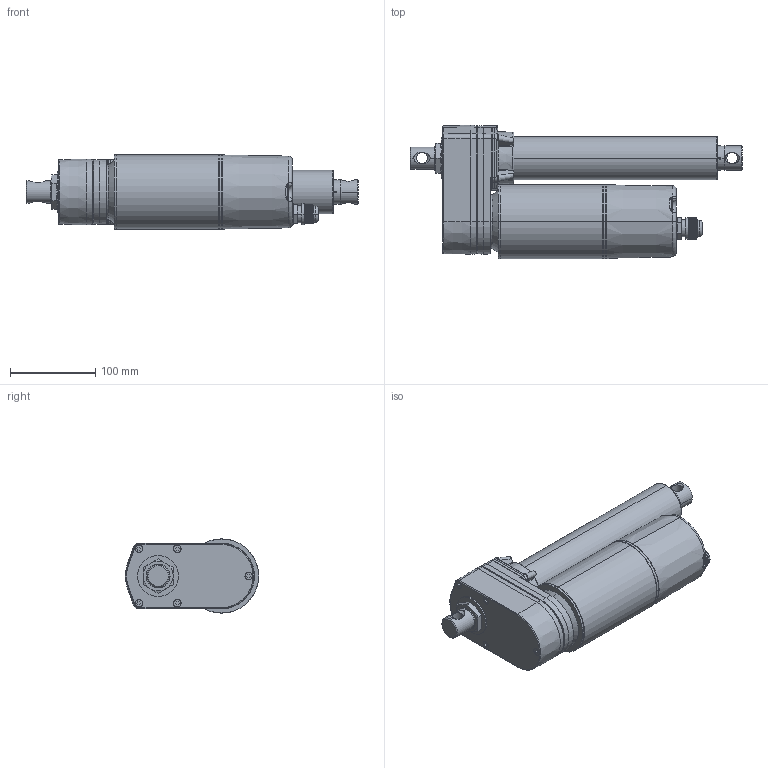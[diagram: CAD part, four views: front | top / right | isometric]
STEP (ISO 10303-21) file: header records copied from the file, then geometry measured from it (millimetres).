
FILE_DESCRIPTION((''),' ');
FILE_NAME('DSZY5-A-203-standard.stp',' ',('Lindner'),('MSW Motion Control GmbH'),' ','ACIS 14.0',' ');
FILE_SCHEMA(('automotive_design'));
Length unit declared in the file: inch
Products named in the file (25): DSZY5|Next assembly relationship#05_AC_ASM|Next assembly relationship#43_AC;43_AC; DSZY5|Next assembly relationship#04_259_AM_ASM|Next assembly relationship#7_259;7_259; DSZY5|Next assembly relationship#01_ASM|Next assembly relationship#48;48; DSZY5|Next assembly relationship#05_AC_ASM|Next assembly relationship#42_SPACER;42_SPACER; DSZY5|Next assembly relationship#02_ASM|Next assembly relationship#91;91; DSZY5|Next assembly relationship#02_ASM|Next assembly relationship#85-1;85-1; DSZY5|Next assembly relationship#05_AC_ASM|Next assembly relationship#86_BODY_M16;86_BODY_M16; DSZY5|Next assembly relationship#05_AC_ASM|Next assembly relationship#AC_MOTOR_COVER;AC_MOTOR_COVER; DSZY5|Next assembly relationship#01_ASM|Next assembly relationship#19;19; DSZY5|Next assembly relationship#02_ASM|Next assembly relationship#87;87; DSZY5|Next assembly relationship#01_ASM|Next assembly relationship#21;21; DSZY5|Next assembly relationship#01_ASM|Next assembly relationship#20;20; DSZY5|Next assembly relationship#44;44; DSZY5|Next assembly relationship#05_AC_ASM|Next assembly relationship#42_AC_COVER;42_AC_COVER; DSZY5|Next assembly relationship#02_ASM|Next assembly relationship#89;89; DSZY5|Next assembly relationship#05_AC_ASM|Next assembly relationship#42_AC;42_AC; DSZY5|Next assembly relationship#04_259_AM_ASM|Next assembly relationship#03_AM_ASM|Next assembly relationship#6;6; DSZY5|Next assembly relationship#04_259_AM_ASM|Next assembly relationship#8;8; DSZY5|Next assembly relationship#04_259_AM_ASM|Next assembly relationship#03_AM_ASM|Next assembly relationship#4_AM;4_AM
Bounding box: 389.8 x 156.73 x 87.3 mm (x, y, z)
Volume: 1104137.7 mm3; surface area: 394298.7 mm2
Topology: 25 solids, 25 shells, 1003 faces, 2445 edges, 1530 vertices
Faces by surface type: plane 403, cylinder 262, cone 147, bspline 104, torus 69, sphere 18
Entity records: 43316 total; most frequent: CARTESIAN_POINT 11406, ORIENTED_EDGE 4890, DIRECTION 4850, EDGE_CURVE 2445, AXIS2_PLACEMENT_3D 1878, VERTEX_POINT 1530, EDGE_LOOP 1123, LINE 1094
